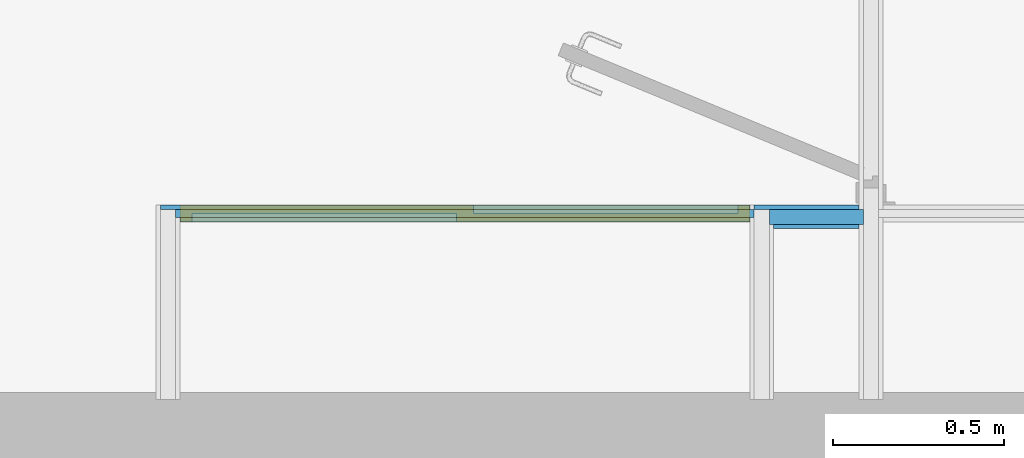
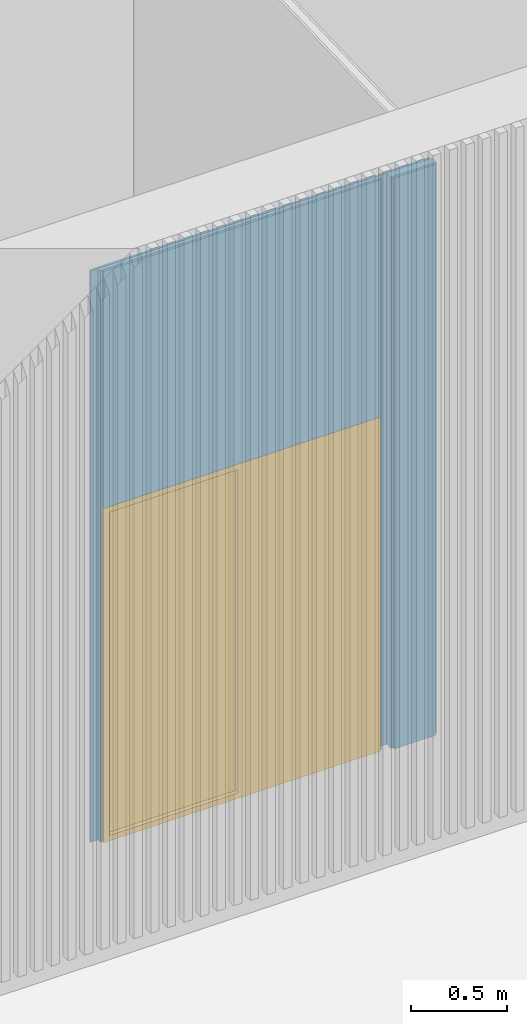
# One storey, part 26 of 34: 6 building element parts, 1 window, 1 opening, 2 elements without a shape of their own.
"""IFC2X3 building model written with IfcOpenShell, lengths in metres."""

from ifc_helpers import new_model, entity, si_unit, converted_unit, derived_unit, money_unit, direction, frame, origin_with_axes, origin_2d_with_axis, place, context, subcontext, project, spatial, polyline, rectangle, outline, extrude, boolean, faceted_brep, material, type_object, element, fill, aggregate, save


model = new_model("IFC2X3")

# Units and contexts
model_context = context("Model", 3, precision=1e-05, world=origin_with_axes(), true_north=direction((0.0, 1.0)))
body_context = subcontext(model_context, "Body", "Model", "MODEL_VIEW")
ifc_project = project(units=[si_unit("LENGTHUNIT", "METRE"), si_unit("AREAUNIT", "SQUARE_METRE"), si_unit("VOLUMEUNIT", "CUBIC_METRE"), converted_unit("PLANEANGLEUNIT", "DEGREE", entity("IfcPlaneAngleMeasure", 0.0174532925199), si_unit("PLANEANGLEUNIT", "RADIAN"), dimensions=[0, 0, 0, 0, 0, 0, 0]), money_unit("CHF"), converted_unit("TIMEUNIT", "Year", entity("IfcTimeMeasure", 31556926.0), si_unit("TIMEUNIT", "SECOND"), dimensions=[0, 0, 1, 0, 0, 0, 0]), si_unit("MASSUNIT", "GRAM", prefix="KILO"), si_unit("THERMODYNAMICTEMPERATUREUNIT", "DEGREE_CELSIUS"), si_unit("LUMINOUSINTENSITYUNIT", "LUMEN"), si_unit("ENERGYUNIT", "JOULE", prefix="MEGA"), derived_unit("THERMALCONDUCTANCEUNIT", [(si_unit("POWERUNIT", "WATT"), 1), (si_unit("LENGTHUNIT", "METRE"), -1), (si_unit("THERMODYNAMICTEMPERATUREUNIT", "KELVIN"), -1)]), derived_unit("SPECIFICHEATCAPACITYUNIT", [(si_unit("ENERGYUNIT", "JOULE"), 1), (si_unit("MASSUNIT", "GRAM", prefix="KILO"), -1), (si_unit("THERMODYNAMICTEMPERATUREUNIT", "KELVIN"), -1)]), derived_unit("MASSDENSITYUNIT", [(si_unit("MASSUNIT", "GRAM", prefix="KILO"), 1), (si_unit("VOLUMEUNIT", "CUBIC_METRE"), -1)])], contexts=[model_context])

# Site, building, storey
site_placement = place(None, origin_with_axes())
site = spatial("IfcSite", under=ifc_project, at=site_placement, Name="Site", CompositionType="ELEMENT")
building_placement = place(site_placement, origin_with_axes())
building = spatial("IfcBuilding", under=site, at=building_placement, Name="Bâtiment", CompositionType="ELEMENT")
storey_placement = place(building_placement, origin_with_axes())
storey = spatial("IfcBuildingStorey", under=building, at=storey_placement, Name="Rez-de-chaussée", CompositionType="ELEMENT", Elevation=0.0)

# Window
window_style = type_object("IfcWindowStyle", Name="Fenêtre horizontale à châssis multiples 26", ConstructionType="NOTDEFINED", OperationType="DOUBLE_PANEL_VERTICAL", ParameterTakesPrecedence=False, Sizeable=False)
wall_1_placement = place(storey_placement, frame((28.4394697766, 7.08012566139, 0.0), z_axis=(0.0, 0.0, 1.0), x_axis=(1.0, 0.0, 0.0)))
opening_placement = place(wall_1_placement, frame((0.905, 0.0, 0.0), z_axis=(0.0, 0.0, 1.0), x_axis=(1.0, 0.0, 0.0)))
window_placement = place(opening_placement, frame((0.835, 0.0, 0.0), z_axis=(0.0, 0.0, 1.0), x_axis=(-1.0, 0.0, 0.0)))
window = element("IfcWindow", 1, at=window_placement, inside=storey, type_object=window_style, Name="Portes placard couliisantes 1x2panneaux", ObjectType="WINDOW", OverallHeight=2.13, OverallWidth=1.67, context=body_context, shape_type="Brep", body=[
    faceted_brep([(1.635, -0.05, 2.095), (1.67, -0.05, 2.095), (1.67, 0.0, 2.095), (1.635, 0.0, 2.095), (1.635, -0.05, 0.035), (1.67, -0.05, 0.035), (1.67, 0.0, 0.035), (1.635, 0.0, 0.035)], [[[0, 1, 2, 3]], [[0, 4, 5, 1]], [[1, 5, 6, 2]], [[3, 2, 6, 7]], [[4, 0, 3, 7]], [[5, 4, 7, 6]]]),
    faceted_brep([(0.035, -0.05, 0.035), (0.0, -0.05, 0.035), (0.0, 0.0, 0.035), (0.035, 0.0, 0.035), (0.035, -0.05, 2.095), (0.0, -0.05, 2.095), (0.0, 0.0, 2.095), (0.035, 0.0, 2.095)], [[[0, 1, 2, 3]], [[0, 4, 5, 1]], [[1, 5, 6, 2]], [[3, 2, 6, 7]], [[4, 0, 3, 7]], [[5, 4, 7, 6]]]),
    faceted_brep([(0.035, -0.05, 2.095), (0.0, -0.05, 2.095), (0.0, 0.0, 2.095), (0.035, 0.0, 2.095), (1.635, -0.05, 2.095), (1.67, -0.05, 2.095), (1.67, -0.05, 2.13), (0.0, -0.05, 2.13), (0.0, 0.0, 2.13), (1.67, 0.0, 2.13), (1.67, 0.0, 2.095), (1.635, 0.0, 2.095)], [[[0, 1, 2, 3]], [[0, 4, 5, 6, 7, 1]], [[1, 7, 8, 2]], [[3, 2, 8, 9, 10, 11]], [[4, 0, 3, 11]], [[5, 4, 11, 10]], [[6, 5, 10, 9]], [[7, 6, 9, 8]]]),
    faceted_brep([(1.635, -0.05, 0.035), (1.67, -0.05, 0.035), (1.67, 0.0, 0.035), (1.635, 0.0, 0.035), (0.035, -0.05, 0.035), (0.0, -0.05, 0.035), (0.0, -0.05, 0.0), (1.67, -0.05, 0.0), (1.67, 0.0, 0.0), (0.0, 0.0, 0.0), (0.0, 0.0, 0.035), (0.035, 0.0, 0.035)], [[[0, 1, 2, 3]], [[0, 4, 5, 6, 7, 1]], [[1, 7, 8, 2]], [[3, 2, 8, 9, 10, 11]], [[4, 0, 3, 11]], [[5, 4, 11, 10]], [[6, 5, 10, 9]], [[7, 6, 9, 8]]]),
    faceted_brep([(0.86, -0.025, 0.035), (0.035, -0.025, 0.035), (0.035, 0.0, 0.035), (0.86, 0.0, 0.035), (0.86, -0.025, 2.095), (0.035, -0.025, 2.095), (0.035, 0.0, 2.095), (0.86, 0.0, 2.095)], [[[0, 1, 2, 3]], [[0, 4, 5, 1]], [[1, 5, 6, 2]], [[3, 2, 6, 7]], [[4, 0, 3, 7]], [[5, 4, 7, 6]]]),
    faceted_brep([(1.635, -0.05, 0.035), (0.81, -0.05, 0.035), (0.81, -0.025, 0.035), (1.635, -0.025, 0.035), (1.635, -0.05, 2.095), (0.81, -0.05, 2.095), (0.81, -0.025, 2.095), (1.635, -0.025, 2.095)], [[[0, 1, 2, 3]], [[0, 4, 5, 1]], [[1, 5, 6, 2]], [[3, 2, 6, 7]], [[4, 0, 3, 7]], [[5, 4, 7, 6]]]),
])

# Wall, opening
wall_type_1 = type_object("IfcWallType", Name="Cloison 50 50", PredefinedType="NOTDEFINED")
wall_1 = element("IfcWall", 2, at=wall_1_placement, inside=storey, type_object=wall_type_1, Name="MUR_EXT-006")
opening = element("IfcOpeningElement", 3, at=opening_placement, cuts=wall_1, Name="Portes placard couliisantes 1x2panneaux", context=body_context, shape_type="SweptSolid", body=[
    extrude(rectangle(XDim=1.67, YDim=2.13, at=origin_2d_with_axis()), frame((0.0, -0.05, 1.065), z_axis=(0.0, -1.0, 0.0), x_axis=(1.0, 0.0, 0.0)), (0.0, 0.0, -1.0), 0.15),
])

fill(opening, window)

# Building element part
ifc_material_1 = material(Name="Finition int - Plaque de plâtre")
building_element_part_1_placement = place(wall_1_placement, origin_with_axes())
building_element_part_1 = element("IfcBuildingElementPart", 4, at=building_element_part_1_placement, material=ifc_material_1, Name="Finition int - Plaque de plâtre", context=body_context, shape_type="CSG", body=[
    boolean("DIFFERENCE", boolean("DIFFERENCE", boolean("DIFFERENCE", extrude(outline(polyline([(0.0, 0.037), (1.81, 0.037), (1.81, 0.05), (0.0, 0.05), (0.0, 0.037)])), origin_with_axes(), (0.0, 0.0, 1.0), 4.0), faceted_brep([(0.013, 0.05, 3.64305439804), (0.013, 0.05, 0.0), (0.0, 0.05, 0.0), (0.0, 0.05, 4.0), (1.81, 0.05, 4.0), (1.81, 0.05, 0.0), (1.74, 0.05, 0.0), (1.74, 0.05, 3.64305439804), (0.013, 0.037, 3.64259939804), (0.013, 0.037, 0.0), (0.0, 0.037, 0.0), (0.0, 0.037, 4.0), (1.81, 0.037, 4.0), (1.81, 0.037, 0.0), (1.74, 0.037, 0.0), (1.74, 0.037, 3.64259939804), (0.057, 0.037, 3.64259939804)], [[[0, 1, 2, 3, 4, 5, 6, 7]], [[1, 0, 8, 9]], [[1, 9, 10, 2]], [[3, 2, 10, 11]], [[3, 11, 12, 4]], [[12, 13, 5, 4]], [[14, 6, 5, 13]], [[7, 6, 14, 15]], [[0, 7, 15, 16, 8]], [[15, 14, 13, 12, 11, 10, 9, 8, 16]]])), faceted_brep([(0.057, 0.037, 3.64259939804), (0.057, 0.037, 0.0), (0.0, 0.037, 0.0), (0.0, 0.037, 4.0), (1.81, 0.037, 4.0), (1.81, 0.037, 0.0), (1.753, 0.037, 0.0), (1.753, 0.037, 3.64259939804), (1.74, 0.037, 3.64259939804), (0.057, 0.013, 3.64175939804), (0.057, 0.013, 0.0), (0.0, 0.013, 0.0), (0.0, 0.013, 4.0), (1.81, 0.013, 4.0), (1.81, 0.013, 0.0), (1.753, 0.013, 0.0), (1.753, 0.013, 3.64175939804), (1.74, 0.013, 3.64175939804), (0.07, 0.013, 3.64175939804)], [[[0, 1, 2, 3, 4, 5, 6, 7, 8]], [[1, 0, 9, 10]], [[1, 10, 11, 2]], [[3, 2, 11, 12]], [[3, 12, 13, 4]], [[13, 14, 5, 4]], [[15, 6, 5, 14]], [[7, 6, 15, 16]], [[8, 7, 16, 17, 18, 9, 0]], [[16, 15, 14, 13, 12, 11, 10, 9, 18, 17]]])), faceted_brep([(0.07, 0.013, 3.64175939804), (0.07, 0.013, 0.0), (0.0, 0.013, 0.0), (0.0, 0.013, 4.0), (1.81, 0.013, 4.0), (1.81, 0.013, 0.0), (1.74, 0.013, 0.0), (1.74, 0.013, 3.64175939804), (0.07, 0.0, 3.64130439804), (0.07, 0.0, 0.0), (0.0, 0.0, 0.0), (0.0, 0.0, 4.0), (1.81, 0.0, 4.0), (1.81, 0.0, 0.0), (1.74, 0.0, 0.0), (1.74, 0.0, 3.64130439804)], [[[0, 1, 2, 3, 4, 5, 6, 7]], [[1, 0, 8, 9]], [[1, 9, 10, 2]], [[3, 2, 10, 11]], [[3, 11, 12, 4]], [[12, 13, 5, 4]], [[14, 6, 5, 13]], [[7, 6, 14, 15]], [[0, 7, 15, 8]], [[15, 14, 13, 12, 11, 10, 9, 8]]])),
])

ifc_material_2 = material(Name="Isolation - Laine de verre")
building_element_part_2_placement = place(wall_1_placement, origin_with_axes())
building_element_part_2 = element("IfcBuildingElementPart", 5, at=building_element_part_2_placement, material=ifc_material_2, Name="Isolation - Laine de verre", context=body_context, shape_type="CSG", body=[
    boolean("DIFFERENCE", boolean("DIFFERENCE", boolean("DIFFERENCE", extrude(outline(polyline([(0.0, 0.013), (1.81, 0.013), (1.81, 0.037), (0.0, 0.037), (0.0, 0.013)])), origin_with_axes(), (0.0, 0.0, 1.0), 4.0), faceted_brep([(0.013, 0.05, 3.64305439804), (0.013, 0.05, 0.0), (0.0, 0.05, 0.0), (0.0, 0.05, 4.0), (1.81, 0.05, 4.0), (1.81, 0.05, 0.0), (1.74, 0.05, 0.0), (1.74, 0.05, 3.64305439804), (0.013, 0.037, 3.64259939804), (0.013, 0.037, 0.0), (0.0, 0.037, 0.0), (0.0, 0.037, 4.0), (1.81, 0.037, 4.0), (1.81, 0.037, 0.0), (1.74, 0.037, 0.0), (1.74, 0.037, 3.64259939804), (0.057, 0.037, 3.64259939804)], [[[0, 1, 2, 3, 4, 5, 6, 7]], [[1, 0, 8, 9]], [[1, 9, 10, 2]], [[3, 2, 10, 11]], [[3, 11, 12, 4]], [[12, 13, 5, 4]], [[14, 6, 5, 13]], [[7, 6, 14, 15]], [[0, 7, 15, 16, 8]], [[15, 14, 13, 12, 11, 10, 9, 8, 16]]])), faceted_brep([(0.057, 0.037, 3.64259939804), (0.057, 0.037, 0.0), (0.0, 0.037, 0.0), (0.0, 0.037, 4.0), (1.81, 0.037, 4.0), (1.81, 0.037, 0.0), (1.753, 0.037, 0.0), (1.753, 0.037, 3.64259939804), (1.74, 0.037, 3.64259939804), (0.057, 0.013, 3.64175939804), (0.057, 0.013, 0.0), (0.0, 0.013, 0.0), (0.0, 0.013, 4.0), (1.81, 0.013, 4.0), (1.81, 0.013, 0.0), (1.753, 0.013, 0.0), (1.753, 0.013, 3.64175939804), (1.74, 0.013, 3.64175939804), (0.07, 0.013, 3.64175939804)], [[[0, 1, 2, 3, 4, 5, 6, 7, 8]], [[1, 0, 9, 10]], [[1, 10, 11, 2]], [[3, 2, 11, 12]], [[3, 12, 13, 4]], [[13, 14, 5, 4]], [[15, 6, 5, 14]], [[7, 6, 15, 16]], [[8, 7, 16, 17, 18, 9, 0]], [[16, 15, 14, 13, 12, 11, 10, 9, 18, 17]]])), faceted_brep([(0.07, 0.013, 3.64175939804), (0.07, 0.013, 0.0), (0.0, 0.013, 0.0), (0.0, 0.013, 4.0), (1.81, 0.013, 4.0), (1.81, 0.013, 0.0), (1.74, 0.013, 0.0), (1.74, 0.013, 3.64175939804), (0.07, 0.0, 3.64130439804), (0.07, 0.0, 0.0), (0.0, 0.0, 0.0), (0.0, 0.0, 4.0), (1.81, 0.0, 4.0), (1.81, 0.0, 0.0), (1.74, 0.0, 0.0), (1.74, 0.0, 3.64130439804)], [[[0, 1, 2, 3, 4, 5, 6, 7]], [[1, 0, 8, 9]], [[1, 9, 10, 2]], [[3, 2, 10, 11]], [[3, 11, 12, 4]], [[12, 13, 5, 4]], [[14, 6, 5, 13]], [[7, 6, 14, 15]], [[0, 7, 15, 8]], [[15, 14, 13, 12, 11, 10, 9, 8]]])),
])

building_element_part_3_placement = place(wall_1_placement, origin_with_axes())
building_element_part_3 = element("IfcBuildingElementPart", 6, at=building_element_part_3_placement, material=ifc_material_1, Name="Finition int - Plaque de plâtre", context=body_context, shape_type="CSG", body=[
    boolean("DIFFERENCE", boolean("DIFFERENCE", boolean("DIFFERENCE", extrude(outline(polyline([(0.0, 0.0), (1.81, 0.0), (1.81, 0.013), (0.0, 0.013), (0.0, 0.0)])), origin_with_axes(), (0.0, 0.0, 1.0), 4.0), faceted_brep([(0.013, 0.05, 3.64305439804), (0.013, 0.05, 0.0), (0.0, 0.05, 0.0), (0.0, 0.05, 4.0), (1.81, 0.05, 4.0), (1.81, 0.05, 0.0), (1.74, 0.05, 0.0), (1.74, 0.05, 3.64305439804), (0.013, 0.037, 3.64259939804), (0.013, 0.037, 0.0), (0.0, 0.037, 0.0), (0.0, 0.037, 4.0), (1.81, 0.037, 4.0), (1.81, 0.037, 0.0), (1.74, 0.037, 0.0), (1.74, 0.037, 3.64259939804), (0.057, 0.037, 3.64259939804)], [[[0, 1, 2, 3, 4, 5, 6, 7]], [[1, 0, 8, 9]], [[1, 9, 10, 2]], [[3, 2, 10, 11]], [[3, 11, 12, 4]], [[12, 13, 5, 4]], [[14, 6, 5, 13]], [[7, 6, 14, 15]], [[0, 7, 15, 16, 8]], [[15, 14, 13, 12, 11, 10, 9, 8, 16]]])), faceted_brep([(0.057, 0.037, 3.64259939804), (0.057, 0.037, 0.0), (0.0, 0.037, 0.0), (0.0, 0.037, 4.0), (1.81, 0.037, 4.0), (1.81, 0.037, 0.0), (1.753, 0.037, 0.0), (1.753, 0.037, 3.64259939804), (1.74, 0.037, 3.64259939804), (0.057, 0.013, 3.64175939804), (0.057, 0.013, 0.0), (0.0, 0.013, 0.0), (0.0, 0.013, 4.0), (1.81, 0.013, 4.0), (1.81, 0.013, 0.0), (1.753, 0.013, 0.0), (1.753, 0.013, 3.64175939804), (1.74, 0.013, 3.64175939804), (0.07, 0.013, 3.64175939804)], [[[0, 1, 2, 3, 4, 5, 6, 7, 8]], [[1, 0, 9, 10]], [[1, 10, 11, 2]], [[3, 2, 11, 12]], [[3, 12, 13, 4]], [[13, 14, 5, 4]], [[15, 6, 5, 14]], [[7, 6, 15, 16]], [[8, 7, 16, 17, 18, 9, 0]], [[16, 15, 14, 13, 12, 11, 10, 9, 18, 17]]])), faceted_brep([(0.07, 0.013, 3.64175939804), (0.07, 0.013, 0.0), (0.0, 0.013, 0.0), (0.0, 0.013, 4.0), (1.81, 0.013, 4.0), (1.81, 0.013, 0.0), (1.74, 0.013, 0.0), (1.74, 0.013, 3.64175939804), (0.07, 0.0, 3.64130439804), (0.07, 0.0, 0.0), (0.0, 0.0, 0.0), (0.0, 0.0, 4.0), (1.81, 0.0, 4.0), (1.81, 0.0, 0.0), (1.74, 0.0, 0.0), (1.74, 0.0, 3.64130439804)], [[[0, 1, 2, 3, 4, 5, 6, 7]], [[1, 0, 8, 9]], [[1, 9, 10, 2]], [[3, 2, 10, 11]], [[3, 11, 12, 4]], [[12, 13, 5, 4]], [[14, 6, 5, 13]], [[7, 6, 14, 15]], [[0, 7, 15, 8]], [[15, 14, 13, 12, 11, 10, 9, 8]]])),
])

aggregate(wall_1, [building_element_part_1, building_element_part_2, building_element_part_3])

# Wall, building element parts
wall_type_2 = type_object("IfcWallType", Name="Cloison 72/48 70", PredefinedType="NOTDEFINED")
wall_2_placement = place(storey_placement, frame((30.1794697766, 7.13012566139, 0.0), z_axis=(0.0, 0.0, 1.0), x_axis=(1.0, 0.0, 0.0)))
wall_2 = element("IfcWall", 7, at=wall_2_placement, inside=storey, type_object=wall_type_2, Name="MUR_EXT-006")
building_element_part_4_placement = place(wall_2_placement, origin_with_axes())
building_element_part_4 = element("IfcBuildingElementPart", 8, at=building_element_part_4_placement, material=ifc_material_1, Name="Finition int - Plaque de plâtre", context=body_context, shape_type="CSG", body=[
    boolean("DIFFERENCE", boolean("DIFFERENCE", boolean("DIFFERENCE", extrude(outline(polyline([(0.0, -0.013), (0.39, -0.013), (0.39, 0.0), (0.0, 0.0), (0.0, -0.013)])), origin_with_axes(), (0.0, 0.0, 1.0), 4.0), faceted_brep([(0.013, 0.0, 3.64305439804), (0.013, 0.0, 0.0), (0.0, 0.0, 0.0), (0.0, 0.0, 4.0), (0.39, 0.0, 4.0), (0.39, 0.0, 0.0), (0.32, 0.0, 0.0), (0.32, 0.0, 3.64305439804), (0.013, -0.013, 3.64259939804), (0.013, -0.013, 0.0), (0.0, -0.013, 0.0), (0.0, -0.013, 4.0), (0.39, -0.013, 4.0), (0.39, -0.013, 0.0), (0.32, -0.013, 0.0), (0.32, -0.013, 3.64259939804), (0.057, -0.013, 3.64259939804)], [[[0, 1, 2, 3, 4, 5, 6, 7]], [[1, 0, 8, 9]], [[1, 9, 10, 2]], [[3, 2, 10, 11]], [[3, 11, 12, 4]], [[12, 13, 5, 4]], [[14, 6, 5, 13]], [[7, 6, 14, 15]], [[0, 7, 15, 16, 8]], [[15, 14, 13, 12, 11, 10, 9, 8, 16]]])), faceted_brep([(0.057, -0.013, 3.64259939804), (0.057, -0.013, 0.0), (0.0, -0.013, 0.0), (0.0, -0.013, 4.0), (0.39, -0.013, 4.0), (0.39, -0.013, 0.0), (0.333, -0.013, 0.0), (0.333, -0.013, 3.64259939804), (0.32, -0.013, 3.64259939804), (0.057, -0.057, 3.64105939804), (0.057, -0.057, 0.0), (0.0, -0.057, 0.0), (0.0, -0.057, 4.0), (0.39, -0.057, 4.0), (0.39, -0.057, 0.0), (0.333, -0.057, 0.0), (0.333, -0.057, 3.64105939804), (0.32, -0.057, 3.64105939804), (0.07, -0.057, 3.64105939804)], [[[0, 1, 2, 3, 4, 5, 6, 7, 8]], [[1, 0, 9, 10]], [[1, 10, 11, 2]], [[3, 2, 11, 12]], [[3, 12, 13, 4]], [[13, 14, 5, 4]], [[15, 6, 5, 14]], [[7, 6, 15, 16]], [[8, 7, 16, 17, 18, 9, 0]], [[16, 15, 14, 13, 12, 11, 10, 9, 18, 17]]])), faceted_brep([(0.07, -0.057, 3.64105939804), (0.07, -0.057, 0.0), (0.0, -0.057, 0.0), (0.0, -0.057, 4.0), (0.39, -0.057, 4.0), (0.39, -0.057, 0.0), (0.32, -0.057, 0.0), (0.32, -0.057, 3.64105939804), (0.07, -0.07, 3.64060439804), (0.07, -0.07, 0.0), (0.0, -0.07, 0.0), (0.0, -0.07, 4.0), (0.39, -0.07, 4.0), (0.39, -0.07, 0.0), (0.32, -0.07, 0.0), (0.32, -0.07, 3.64060439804)], [[[0, 1, 2, 3, 4, 5, 6, 7]], [[1, 0, 8, 9]], [[1, 9, 10, 2]], [[3, 2, 10, 11]], [[3, 11, 12, 4]], [[12, 13, 5, 4]], [[14, 6, 5, 13]], [[7, 6, 14, 15]], [[0, 7, 15, 8]], [[15, 14, 13, 12, 11, 10, 9, 8]]])),
])
building_element_part_5_placement = place(wall_2_placement, origin_with_axes())
building_element_part_5 = element("IfcBuildingElementPart", 9, at=building_element_part_5_placement, material=ifc_material_2, Name="Isolation - Laine de verre", context=body_context, shape_type="CSG", body=[
    boolean("DIFFERENCE", boolean("DIFFERENCE", boolean("DIFFERENCE", extrude(outline(polyline([(0.0, -0.057), (0.39, -0.057), (0.39, -0.013), (0.0, -0.013), (0.0, -0.057)])), origin_with_axes(), (0.0, 0.0, 1.0), 4.0), faceted_brep([(0.013, 0.0, 3.64305439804), (0.013, 0.0, 0.0), (0.0, 0.0, 0.0), (0.0, 0.0, 4.0), (0.39, 0.0, 4.0), (0.39, 0.0, 0.0), (0.32, 0.0, 0.0), (0.32, 0.0, 3.64305439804), (0.013, -0.013, 3.64259939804), (0.013, -0.013, 0.0), (0.0, -0.013, 0.0), (0.0, -0.013, 4.0), (0.39, -0.013, 4.0), (0.39, -0.013, 0.0), (0.32, -0.013, 0.0), (0.32, -0.013, 3.64259939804), (0.057, -0.013, 3.64259939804)], [[[0, 1, 2, 3, 4, 5, 6, 7]], [[1, 0, 8, 9]], [[1, 9, 10, 2]], [[3, 2, 10, 11]], [[3, 11, 12, 4]], [[12, 13, 5, 4]], [[14, 6, 5, 13]], [[7, 6, 14, 15]], [[0, 7, 15, 16, 8]], [[15, 14, 13, 12, 11, 10, 9, 8, 16]]])), faceted_brep([(0.057, -0.013, 3.64259939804), (0.057, -0.013, 0.0), (0.0, -0.013, 0.0), (0.0, -0.013, 4.0), (0.39, -0.013, 4.0), (0.39, -0.013, 0.0), (0.333, -0.013, 0.0), (0.333, -0.013, 3.64259939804), (0.32, -0.013, 3.64259939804), (0.057, -0.057, 3.64105939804), (0.057, -0.057, 0.0), (0.0, -0.057, 0.0), (0.0, -0.057, 4.0), (0.39, -0.057, 4.0), (0.39, -0.057, 0.0), (0.333, -0.057, 0.0), (0.333, -0.057, 3.64105939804), (0.32, -0.057, 3.64105939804), (0.07, -0.057, 3.64105939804)], [[[0, 1, 2, 3, 4, 5, 6, 7, 8]], [[1, 0, 9, 10]], [[1, 10, 11, 2]], [[3, 2, 11, 12]], [[3, 12, 13, 4]], [[13, 14, 5, 4]], [[15, 6, 5, 14]], [[7, 6, 15, 16]], [[8, 7, 16, 17, 18, 9, 0]], [[16, 15, 14, 13, 12, 11, 10, 9, 18, 17]]])), faceted_brep([(0.07, -0.057, 3.64105939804), (0.07, -0.057, 0.0), (0.0, -0.057, 0.0), (0.0, -0.057, 4.0), (0.39, -0.057, 4.0), (0.39, -0.057, 0.0), (0.32, -0.057, 0.0), (0.32, -0.057, 3.64105939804), (0.07, -0.07, 3.64060439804), (0.07, -0.07, 0.0), (0.0, -0.07, 0.0), (0.0, -0.07, 4.0), (0.39, -0.07, 4.0), (0.39, -0.07, 0.0), (0.32, -0.07, 0.0), (0.32, -0.07, 3.64060439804)], [[[0, 1, 2, 3, 4, 5, 6, 7]], [[1, 0, 8, 9]], [[1, 9, 10, 2]], [[3, 2, 10, 11]], [[3, 11, 12, 4]], [[12, 13, 5, 4]], [[14, 6, 5, 13]], [[7, 6, 14, 15]], [[0, 7, 15, 8]], [[15, 14, 13, 12, 11, 10, 9, 8]]])),
])
building_element_part_6_placement = place(wall_2_placement, origin_with_axes())
building_element_part_6 = element("IfcBuildingElementPart", 10, at=building_element_part_6_placement, material=ifc_material_1, Name="Finition int - Plaque de plâtre", context=body_context, shape_type="CSG", body=[
    boolean("DIFFERENCE", boolean("DIFFERENCE", boolean("DIFFERENCE", extrude(outline(polyline([(0.0, -0.07), (0.39, -0.07), (0.39, -0.057), (0.0, -0.057), (0.0, -0.07)])), origin_with_axes(), (0.0, 0.0, 1.0), 4.0), faceted_brep([(0.013, 0.0, 3.64305439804), (0.013, 0.0, 0.0), (0.0, 0.0, 0.0), (0.0, 0.0, 4.0), (0.39, 0.0, 4.0), (0.39, 0.0, 0.0), (0.32, 0.0, 0.0), (0.32, 0.0, 3.64305439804), (0.013, -0.013, 3.64259939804), (0.013, -0.013, 0.0), (0.0, -0.013, 0.0), (0.0, -0.013, 4.0), (0.39, -0.013, 4.0), (0.39, -0.013, 0.0), (0.32, -0.013, 0.0), (0.32, -0.013, 3.64259939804), (0.057, -0.013, 3.64259939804)], [[[0, 1, 2, 3, 4, 5, 6, 7]], [[1, 0, 8, 9]], [[1, 9, 10, 2]], [[3, 2, 10, 11]], [[3, 11, 12, 4]], [[12, 13, 5, 4]], [[14, 6, 5, 13]], [[7, 6, 14, 15]], [[0, 7, 15, 16, 8]], [[15, 14, 13, 12, 11, 10, 9, 8, 16]]])), faceted_brep([(0.057, -0.013, 3.64259939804), (0.057, -0.013, 0.0), (0.0, -0.013, 0.0), (0.0, -0.013, 4.0), (0.39, -0.013, 4.0), (0.39, -0.013, 0.0), (0.333, -0.013, 0.0), (0.333, -0.013, 3.64259939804), (0.32, -0.013, 3.64259939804), (0.057, -0.057, 3.64105939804), (0.057, -0.057, 0.0), (0.0, -0.057, 0.0), (0.0, -0.057, 4.0), (0.39, -0.057, 4.0), (0.39, -0.057, 0.0), (0.333, -0.057, 0.0), (0.333, -0.057, 3.64105939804), (0.32, -0.057, 3.64105939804), (0.07, -0.057, 3.64105939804)], [[[0, 1, 2, 3, 4, 5, 6, 7, 8]], [[1, 0, 9, 10]], [[1, 10, 11, 2]], [[3, 2, 11, 12]], [[3, 12, 13, 4]], [[13, 14, 5, 4]], [[15, 6, 5, 14]], [[7, 6, 15, 16]], [[8, 7, 16, 17, 18, 9, 0]], [[16, 15, 14, 13, 12, 11, 10, 9, 18, 17]]])), faceted_brep([(0.07, -0.057, 3.64105939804), (0.07, -0.057, 0.0), (0.0, -0.057, 0.0), (0.0, -0.057, 4.0), (0.39, -0.057, 4.0), (0.39, -0.057, 0.0), (0.32, -0.057, 0.0), (0.32, -0.057, 3.64105939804), (0.07, -0.07, 3.64060439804), (0.07, -0.07, 0.0), (0.0, -0.07, 0.0), (0.0, -0.07, 4.0), (0.39, -0.07, 4.0), (0.39, -0.07, 0.0), (0.32, -0.07, 0.0), (0.32, -0.07, 3.64060439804)], [[[0, 1, 2, 3, 4, 5, 6, 7]], [[1, 0, 8, 9]], [[1, 9, 10, 2]], [[3, 2, 10, 11]], [[3, 11, 12, 4]], [[12, 13, 5, 4]], [[14, 6, 5, 13]], [[7, 6, 14, 15]], [[0, 7, 15, 8]], [[15, 14, 13, 12, 11, 10, 9, 8]]])),
])
aggregate(wall_2, [building_element_part_4, building_element_part_5, building_element_part_6])

save(model, "model.ifc")
